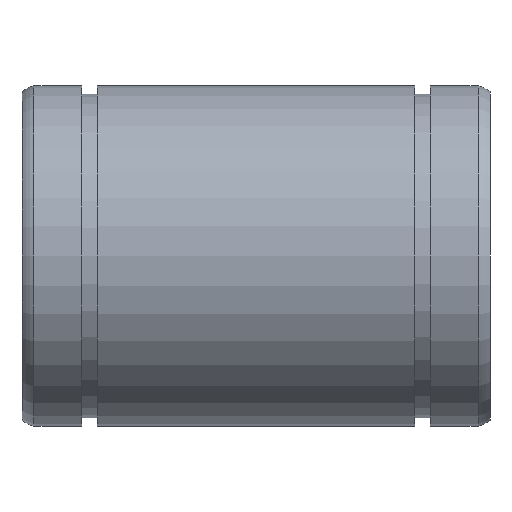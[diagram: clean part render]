
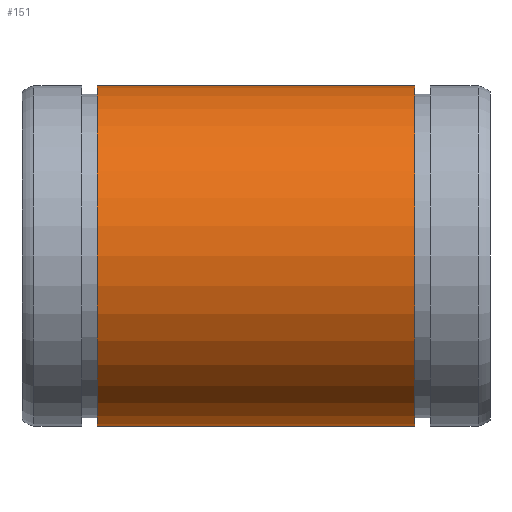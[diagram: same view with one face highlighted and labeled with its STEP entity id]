
A CAD part, front view. The second image highlights one B-rep face of the part: STEP entity #151.
In plain terms, the highlighted cylindrical face has radius 20 mm (diameter 40 mm), a full revolution.
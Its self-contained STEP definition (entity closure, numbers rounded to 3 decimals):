
#117=CARTESIAN_POINT('',(46.15,0.0,20.));
#118=VERTEX_POINT('',#117);
#119=CARTESIAN_POINT('',(46.15,0.0,0.));
#120=DIRECTION('',(-1.0,0.0,0.0));
#121=DIRECTION('',(0.0,0.0,1.0));
#122=AXIS2_PLACEMENT_3D('',#119,#120,#121);
#123=CIRCLE('',#122,20.);
#124=EDGE_CURVE('',#118,#118,#123,.T.);
#132=CARTESIAN_POINT('',(27.5,0.0,0.));
#133=DIRECTION('',(-1.0,0.0,0.0));
#134=DIRECTION('',(0.0,0.0,1.0));
#135=AXIS2_PLACEMENT_3D('',#132,#133,#134);
#136=CYLINDRICAL_SURFACE('',#135,20.);
#137=CARTESIAN_POINT('',(8.85,0.0,20.));
#138=VERTEX_POINT('',#137);
#139=CARTESIAN_POINT('',(8.85,0.0,0.));
#140=DIRECTION('',(-1.0,0.0,0.0));
#141=DIRECTION('',(0.0,0.0,1.0));
#142=AXIS2_PLACEMENT_3D('',#139,#140,#141);
#143=CIRCLE('',#142,20.0);
#144=EDGE_CURVE('',#138,#138,#143,.T.);
#145=ORIENTED_EDGE('',*,*,#144,.F.);
#146=EDGE_LOOP('',(#145));
#147=FACE_OUTER_BOUND('',#146,.T.);
#148=ORIENTED_EDGE('',*,*,#124,.T.);
#149=EDGE_LOOP('',(#148));
#150=FACE_BOUND('',#149,.T.);
#151=ADVANCED_FACE('',(#147,#150),#136,.T.);
